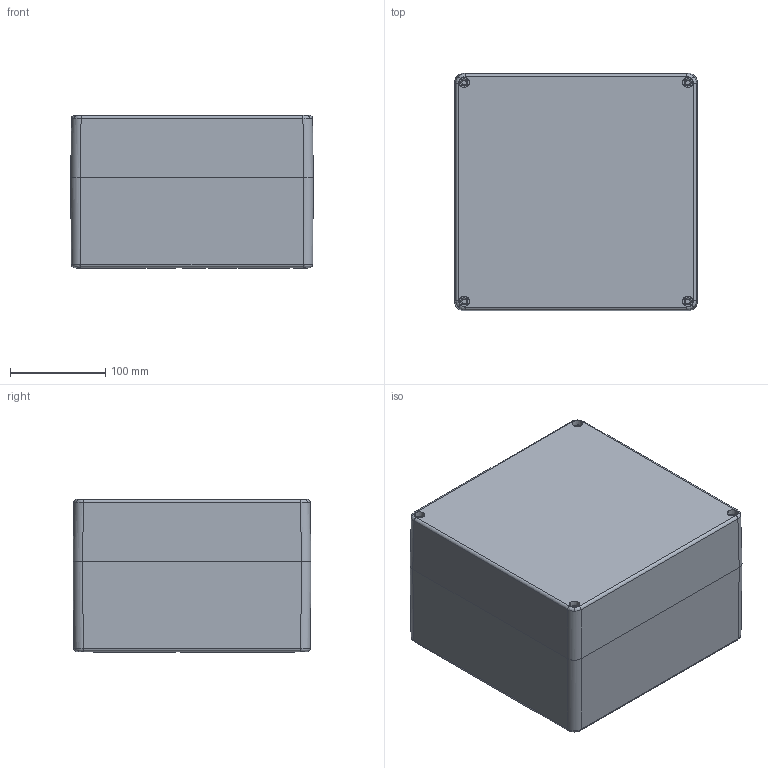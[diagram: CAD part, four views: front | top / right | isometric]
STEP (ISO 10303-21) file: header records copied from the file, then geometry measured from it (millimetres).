
FILE_DESCRIPTION (( 'STEP AP203' ), '1' );
FILE_NAME ('GRP ASSY 255250160.STEP', '2024-08-26T11:02:25', ( '' ), ( '' ), 'SwSTEP 2.0', 'SolidWorks 2018', '' );
FILE_SCHEMA (( 'CONFIG_CONTROL_DESIGN' ));
Length unit declared in the file: millimetre
Products named in the file (5): GRP LID 255250160; M6 SS TOP INSERT; GRP ASSY 255250160; M6 BOTTOM INSERT; GRP BASE 255250160
Assembly tree (12 placements, depth 2):
  GRP ASSY 255250160
    GRP BASE 255250160
    GRP LID 255250160
    M6 BOTTOM INSERT  x6
    M6 SS TOP INSERT  x4
Bounding box: 255 x 250 x 161 mm (x, y, z)
Volume: 1907054.4 mm3; surface area: 586625.1 mm2
Topology: 12 solids, 12 shells, 1240 faces, 2976 edges, 1827 vertices
Faces by surface type: plane 437, cylinder 344, bspline 251, cone 168, torus 40
Entity records: 39309 total; most frequent: CARTESIAN_POINT 18925, ORIENTED_EDGE 4360, DIRECTION 3599, EDGE_CURVE 2180, VERTEX_POINT 1347, AXIS2_PLACEMENT_3D 1280, VECTOR 1039, LINE 1039
